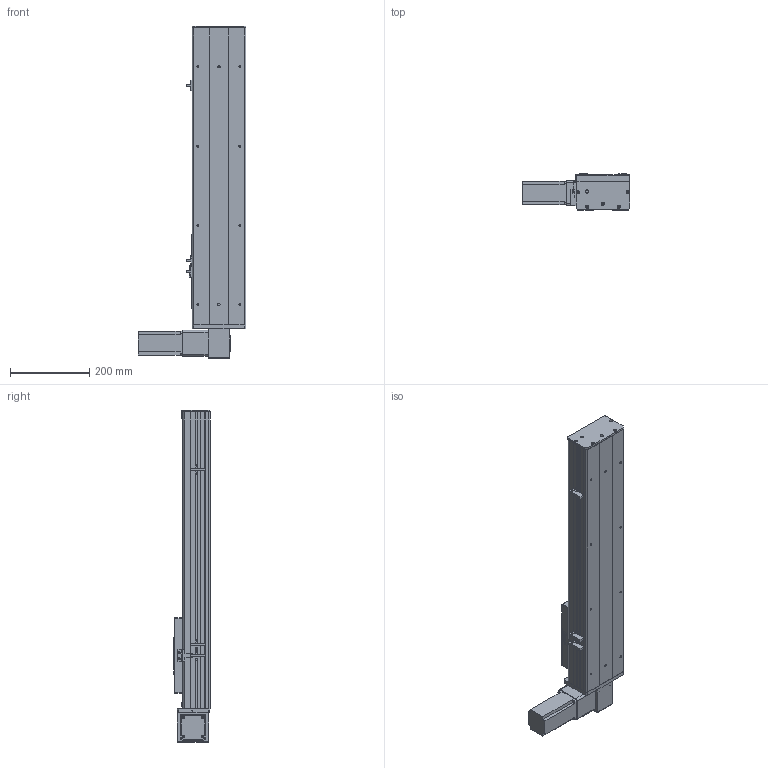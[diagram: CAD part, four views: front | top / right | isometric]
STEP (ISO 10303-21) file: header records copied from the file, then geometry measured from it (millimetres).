
FILE_DESCRIPTION (( 'STEP AP203' ), '1' );
FILE_NAME ('Y135CB-D90-S450-BD-P400W.STEP', '2020-02-19T02:55:45', ( '微软用户' ), ( '微软中国' ), 'SwSTEP 2.0', 'SolidWorks 2017', '' );
FILE_SCHEMA (( 'CONFIG_CONTROL_DESIGN' ));
Length unit declared in the file: millimetre
Products named in the file (16): Y10B--々湍喘謫眊--666; 135CB---遴掛极.-; 0B-薊粣ん眊; 35CB---喘謫眊楊擘啣; 5CB --掛极耜裔啣-; Y135CB-D90-S450-BD-P400W; 0B-埴倛裔啣; C-詩湍揤踡え-陔; 0B-源倛裔啣; 135CB--詩湍-CE; san松下电机400不带刹车----; Y100-135俋离換覜ん--; Y135C-陔俋离換覜結え-; 5C--俋欶; C-雄赽釱--; Y135CB-耜裔
Assembly tree (19 placements, depth 2):
  Y135CB-D90-S450-BD-P400W
    Y135CB-耜裔
    135CB---遴掛极.-
    35CB---喘謫眊楊擘啣
    0B-埴倛裔啣
    0B-源倛裔啣
    san松下电机400不带刹车----
    5CB --掛极耜裔啣-  x2
    C-詩湍揤踡え-陔  x2
    135CB--詩湍-CE
    Y100-135俋离換覜ん--  x3
    Y135C-陔俋离換覜結え-
    5C--俋欶
    C-雄赽釱--
    Y10B--々湍喘謫眊--666
    0B-薊粣ん眊
Bounding box: 272 x 91 x 838 mm (x, y, z)
Volume: 2958548.1 mm3; surface area: 1099084.3 mm2
Topology: 19 solids, 19 shells, 843 faces, 2212 edges, 1464 vertices
Faces by surface type: plane 415, cylinder 412, cone 16
Entity records: 25400 total; most frequent: DIRECTION 4232, CARTESIAN_POINT 4115, ORIENTED_EDGE 3900, EDGE_CURVE 1950, AXIS2_PLACEMENT_3D 1545, VERTEX_POINT 1292, VECTOR 1142, LINE 1142
